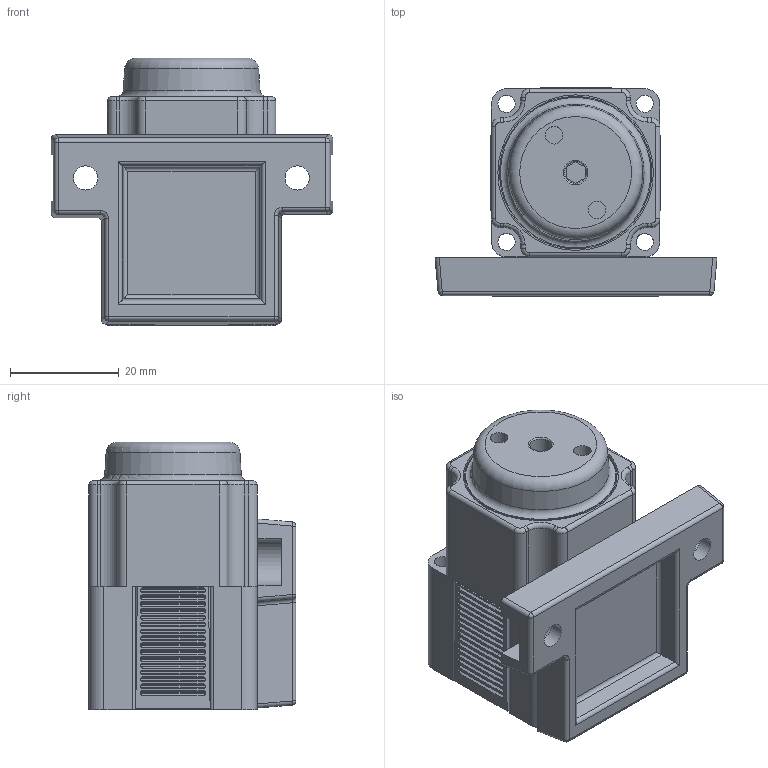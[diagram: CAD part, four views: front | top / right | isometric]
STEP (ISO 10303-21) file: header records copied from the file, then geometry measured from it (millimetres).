
FILE_DESCRIPTION(/* description */ (''),/* implementation_level */ '2;1');
FILE_NAME(/* name */ 'K:\Normteile INVENTOR\Air-Logic\Regulators\PR7000\PR 7___ W Wall Mounting Dovetail Bracket.igs.ipt.stp',/* time_stamp */ '2020-05-27T10:54:47+02:00',/* author */ ('Paul'),/* organization */ (''),/* preprocessor_version */ 'ST-DEVELOPER v18',/* originating_system */ 'Autodesk Inventor 2020',/* authorisation */ '');
FILE_SCHEMA (('AUTOMOTIVE_DESIGN { 1 0 10303 214 3 1 1 }'));
Length unit declared in the file: inch
Products named in the file (1): PR 7___ W Wall Mounting Dovetail Bracket.igs
Bounding box: 51.8 x 38.2 x 49.15 mm (x, y, z)
Volume: 45539.6 mm3; surface area: 15514.2 mm2
Topology: 1 solids, 1 shells, 608 faces, 1558 edges, 1001 vertices
Faces by surface type: plane 297, cylinder 269, bspline 18, torus 17, sphere 6, cone 1
Full cylindrical faces by diameter (mm): 3.175 x4, 3.226 x2, 4.013 x1, 4.445 x2, 26.264 x1, 28.047 x1, 28.575 x1
Entity records: 20548 total; most frequent: CARTESIAN_POINT 4629, DIRECTION 3392, ORIENTED_EDGE 3116, EDGE_CURVE 1558, AXIS2_PLACEMENT_3D 1335, VERTEX_POINT 1001, LINE 722, VECTOR 722
